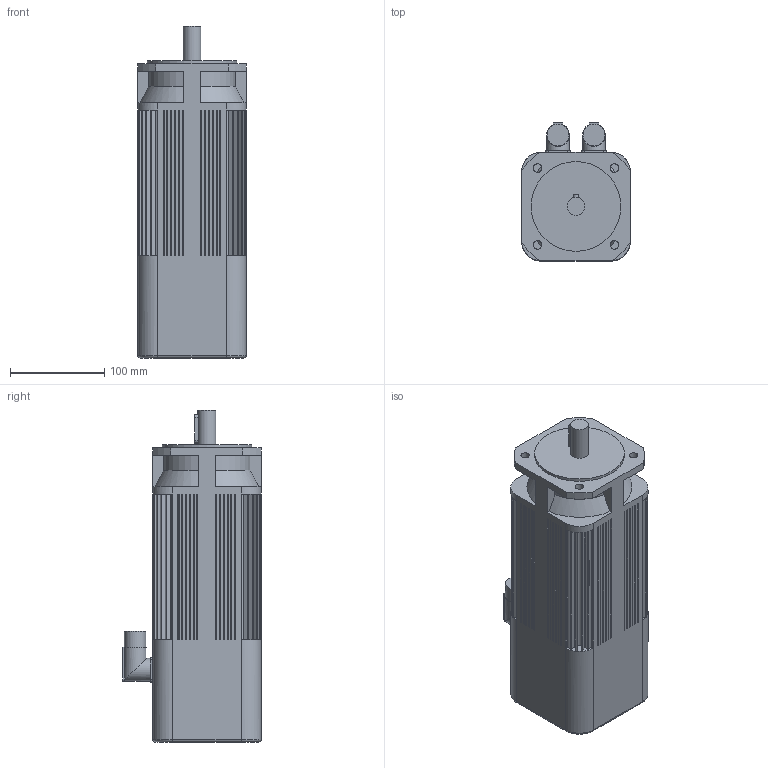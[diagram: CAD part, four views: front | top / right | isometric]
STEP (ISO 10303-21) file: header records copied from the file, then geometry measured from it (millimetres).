
FILE_DESCRIPTION(/* description */ (''),/* implementation_level */ '2;1');
FILE_NAME(/* name */ '\\Lafnas01\disegni\Archivi Lafert\3D\CAD 3D\MODELLI\Assiemi clienti\Serad\Modelli 3D Serad\B63I\Encoder\Enc With Brake\B6306Ixx6BRx2033.ipt.stp',/* time_stamp */ '2015-09-07T10:50:28+02:00',/* author */ ('Pastrello Ylenia'),/* organization */ (''),/* preprocessor_version */ 'ST-DEVELOPER v15.6',/* originating_system */ 'Autodesk Inventor 2015',/* authorisation */ '');
FILE_SCHEMA (('AUTOMOTIVE_DESIGN { 1 0 10303 214 3 1 1 }'));
Length unit declared in the file: millimetre
Products named in the file (1): B6306Ixx6BRx2033
Bounding box: 115 x 146.5 x 351.5 mm (x, y, z)
Volume: 3850296.4 mm3; surface area: 215296.9 mm2
Topology: 1 solids, 1 shells, 445 faces, 1091 edges, 704 vertices
Faces by surface type: plane 351, cylinder 86, cone 4, torus 4
Full cylindrical faces by diameter (mm): 9 x4, 19 x1, 22.7 x2, 24 x2, 95 x1
Entity records: 13008 total; most frequent: CARTESIAN_POINT 2276, DIRECTION 2254, ORIENTED_EDGE 2156, EDGE_CURVE 1078, LINE 774, VECTOR 774, AXIS2_PLACEMENT_3D 740, VERTEX_POINT 702
